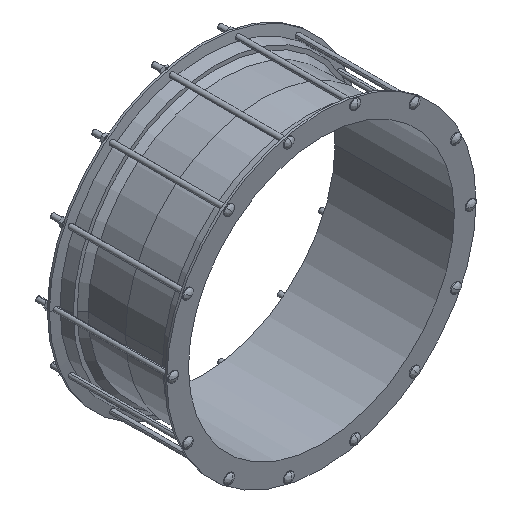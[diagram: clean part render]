
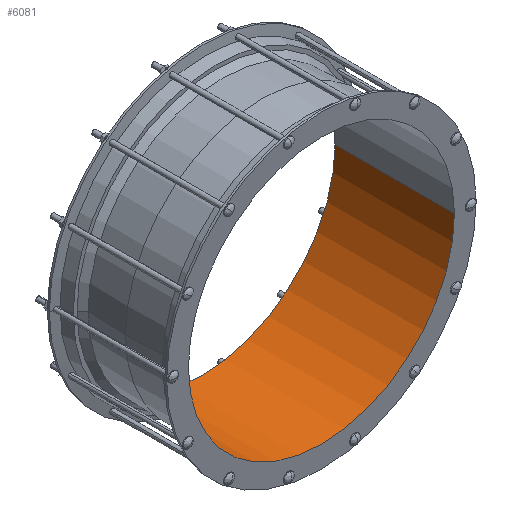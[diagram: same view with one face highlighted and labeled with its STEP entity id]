
A CAD part, isometric view. The second image highlights one B-rep face of the part: STEP entity #6081.
In plain terms, the highlighted cylindrical face has radius 336.5 mm (diameter 673 mm), a partial arc.
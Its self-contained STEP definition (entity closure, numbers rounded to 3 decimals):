
#2095=CARTESIAN_POINT('',(0.,151.,0.));
#2096=DIRECTION('',(0.,-1.,0.));
#2097=DIRECTION('',(-1.,0.,0.));
#2098=AXIS2_PLACEMENT_3D('',#2095,#2096,#2097);
#2245=CARTESIAN_POINT('',(0.,-151.,0.));
#2246=DIRECTION('',(0.,-1.,0.));
#2247=DIRECTION('',(-1.,0.,0.));
#2248=AXIS2_PLACEMENT_3D('',#2245,#2246,#2247);
#2250=DIRECTION('',(0.,1.,0.));
#2251=VECTOR('',#2250,302.);
#2252=CARTESIAN_POINT('',(-336.5,-151.,0.));
#2253=LINE('',#2252,#2251);
#2259=DIRECTION('',(0.,1.,0.));
#2260=VECTOR('',#2259,302.);
#2261=CARTESIAN_POINT('',(336.5,-151.,0.));
#2262=LINE('',#2261,#2260);
#4530=CARTESIAN_POINT('',(-336.5,-151.,0.));
#4531=CARTESIAN_POINT('',(-336.5,151.,0.));
#4532=VERTEX_POINT('',#4530);
#4533=VERTEX_POINT('',#4531);
#4548=CARTESIAN_POINT('',(336.5,-151.,0.));
#4549=CARTESIAN_POINT('',(336.5,151.,0.));
#4550=VERTEX_POINT('',#4548);
#4551=VERTEX_POINT('',#4549);
#6067=CARTESIAN_POINT('',(0.,166.1,0.));
#6068=DIRECTION('',(0.,-1.,0.));
#6069=DIRECTION('',(-1.,0.,0.));
#6070=AXIS2_PLACEMENT_3D('',#6067,#6068,#6069);
#6071=CYLINDRICAL_SURFACE('',#6070,336.5);
#6073=ORIENTED_EDGE('',*,*,#6072,.T.);
#6074=ORIENTED_EDGE('',*,*,#5977,.T.);
#6076=ORIENTED_EDGE('',*,*,#6075,.F.);
#6078=ORIENTED_EDGE('',*,*,#6077,.F.);
#6079=EDGE_LOOP('',(#6073,#6074,#6076,#6078));
#6080=FACE_OUTER_BOUND('',#6079,.F.);
#6081=ADVANCED_FACE('',(#6080),#6071,.F.);
#2099=CIRCLE('',#2098,336.5);
#2249=CIRCLE('',#2248,336.5);
#5977=EDGE_CURVE('',#4533,#4551,#2099,.T.);
#6072=EDGE_CURVE('',#4532,#4533,#2253,.T.);
#6075=EDGE_CURVE('',#4550,#4551,#2262,.T.);
#6077=EDGE_CURVE('',#4532,#4550,#2249,.T.);
